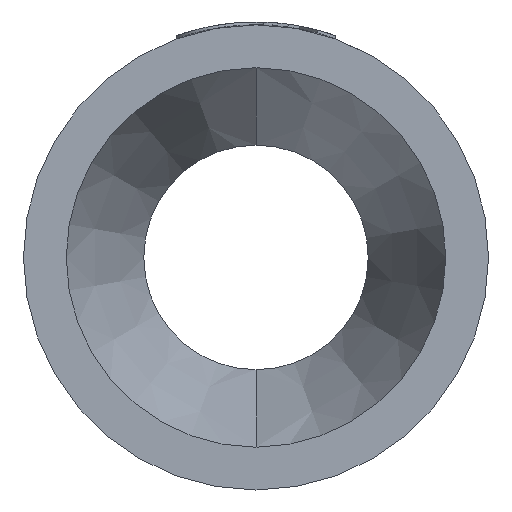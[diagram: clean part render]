
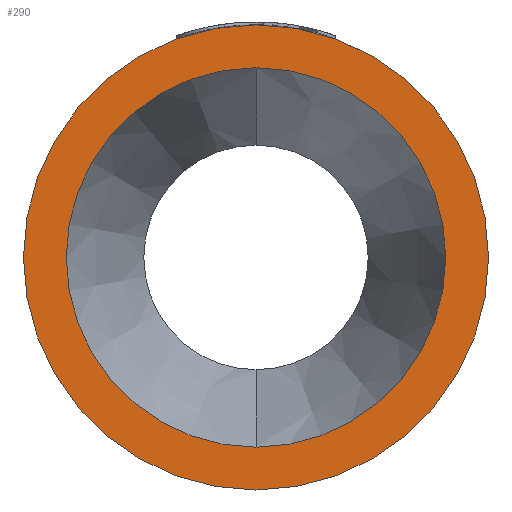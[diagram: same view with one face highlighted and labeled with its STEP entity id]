
A CAD part, left-side view. The second image highlights one B-rep face of the part: STEP entity #290.
In plain terms, the highlighted planar face has unit normal (-1, 0, 0).
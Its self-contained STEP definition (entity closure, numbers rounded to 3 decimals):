
#247 = CARTESIAN_POINT ( 'NONE',  ( 0., 0., 37.5 ) ) ;
#248 = EDGE_CURVE ( 'NONE', #770, #2086, #967, .T. ) ;
#290 = ADVANCED_FACE ( 'NONE', ( #2869, #2447 ), #486, .F. ) ;
#330 = DIRECTION ( 'NONE',  ( 0., 0., 1. ) ) ;
#344 = DIRECTION ( 'NONE',  ( -1., 0., 0. ) ) ;
#357 = CARTESIAN_POINT ( 'NONE',  ( 0., 0., 0. ) ) ;
#410 = DIRECTION ( 'NONE',  ( 1., 0., 0. ) ) ;
#420 = CARTESIAN_POINT ( 'NONE',  ( 0., 30.6, 0. ) ) ;
#456 = CARTESIAN_POINT ( 'NONE',  ( 0., 0., 30.6 ) ) ;
#486 = PLANE ( 'NONE',  #2309 ) ;
#612 = VERTEX_POINT ( 'NONE', #456 ) ;
#693 = EDGE_CURVE ( 'NONE', #1805, #612, #2187, .T. ) ;
#770 = VERTEX_POINT ( 'NONE', #247 ) ;
#900 = DIRECTION ( 'NONE',  ( 0., 0., 1. ) ) ;
#920 = CARTESIAN_POINT ( 'NONE',  ( 0., 0., 0. ) ) ;
#967 = CIRCLE ( 'NONE', #2886, 37.5 ) ;
#1593 = DIRECTION ( 'NONE',  ( 0., 0., -1. ) ) ;
#1645 = DIRECTION ( 'NONE',  ( 0., 0., 1. ) ) ;
#1661 = DIRECTION ( 'NONE',  ( -1., 0., 0. ) ) ;
#1671 = CARTESIAN_POINT ( 'NONE',  ( 0., 0., 0. ) ) ;
#1714 = DIRECTION ( 'NONE',  ( 0., 0., 1. ) ) ;
#1725 = ORIENTED_EDGE ( 'NONE', *, *, #2179, .F. ) ;
#1726 = DIRECTION ( 'NONE',  ( -1., 0., 0. ) ) ;
#1732 = CARTESIAN_POINT ( 'NONE',  ( 0., 0., 0. ) ) ;
#1733 = ORIENTED_EDGE ( 'NONE', *, *, #693, .F. ) ;
#1741 = ORIENTED_EDGE ( 'NONE', *, *, #248, .T. ) ;
#1745 = ORIENTED_EDGE ( 'NONE', *, *, #2200, .T. ) ;
#1805 = VERTEX_POINT ( 'NONE', #2394 ) ;
#1912 = CARTESIAN_POINT ( 'NONE',  ( 0., 0., -37.5 ) ) ;
#2005 = DIRECTION ( 'NONE',  ( -1., 0., 0. ) ) ;
#2071 = EDGE_LOOP ( 'NONE', ( #1741, #1745 ) ) ;
#2086 = VERTEX_POINT ( 'NONE', #1912 ) ;
#2165 = EDGE_LOOP ( 'NONE', ( #1725, #1733 ) ) ;
#2179 = EDGE_CURVE ( 'NONE', #612, #1805, #3084, .T. ) ;
#2187 = CIRCLE ( 'NONE', #2965, 30.6 ) ;
#2200 = EDGE_CURVE ( 'NONE', #2086, #770, #2983, .T. ) ;
#2309 = AXIS2_PLACEMENT_3D ( 'NONE', #420, #410, #1593 ) ;
#2394 = CARTESIAN_POINT ( 'NONE',  ( 0., 0., -30.6 ) ) ;
#2447 = FACE_OUTER_BOUND ( 'NONE', #2071, .T. ) ;
#2551 = AXIS2_PLACEMENT_3D ( 'NONE', #1671, #1661, #1645 ) ;
#2589 = AXIS2_PLACEMENT_3D ( 'NONE', #1732, #1726, #1714 ) ;
#2869 = FACE_BOUND ( 'NONE', #2165, .T. ) ;
#2886 = AXIS2_PLACEMENT_3D ( 'NONE', #920, #2005, #900 ) ;
#2965 = AXIS2_PLACEMENT_3D ( 'NONE', #357, #344, #330 ) ;
#2983 = CIRCLE ( 'NONE', #2551, 37.5 ) ;
#3084 = CIRCLE ( 'NONE', #2589, 30.6 ) ;
